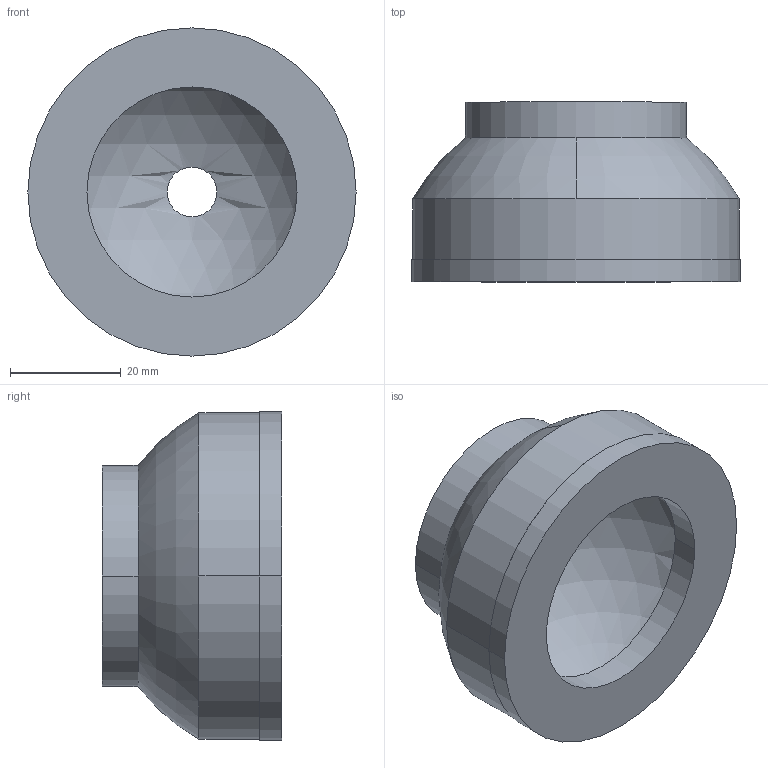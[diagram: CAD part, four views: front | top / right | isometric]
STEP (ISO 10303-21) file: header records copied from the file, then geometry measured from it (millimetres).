
FILE_DESCRIPTION(('STEP AP214'),'1');
FILE_NAME('Mini-Dome-60-RGB-DC-Kundenzeichnung-D9.stp','2016-04-05T10:01:14',(' '),(' '),'Spatial InterOp 3D',' ',' ');
FILE_SCHEMA(('automotive_design'));
Length unit declared in the file: metre
Products named in the file (5): 1; 2; 3; 4; 5
Bounding box: 59.4 x 32.5 x 59.4 mm (x, y, z)
Volume: 35267.1 mm3; surface area: 14172.5 mm2
Topology: 1 solids, 13 shells, 41 faces, 110 edges, 90 vertices
Faces by surface type: cylinder 26, plane 12, torus 2, sphere 1
Entity records: 1801 total; most frequent: DIRECTION 278, CARTESIAN_POINT 246, ORIENTED_EDGE 172, AXIS2_PLACEMENT_3D 122, EDGE_CURVE 110, VERTEX_POINT 90, CIRCLE 76, EDGE_LOOP 54
